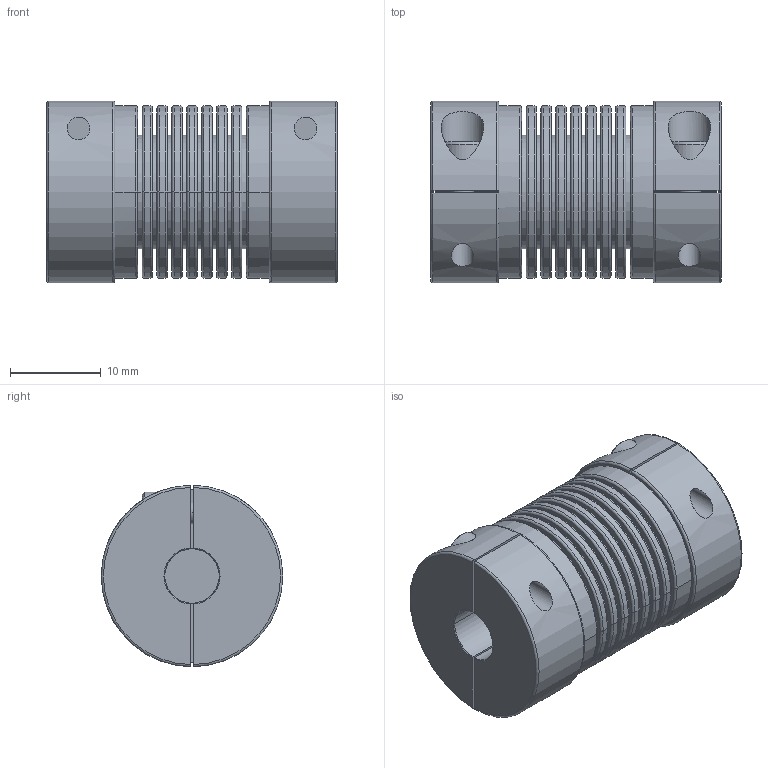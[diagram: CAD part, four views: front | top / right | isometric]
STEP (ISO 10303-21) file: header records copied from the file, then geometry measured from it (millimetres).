
FILE_DESCRIPTION((''),'2;1');
FILE_NAME('51070','2010-11-08T',('carefree'),(''),'PRO/ENGINEER BY PARAMETRIC TECHNOLOGY CORPORATION, 2005030','PRO/ENGINEER BY PARAMETRIC TECHNOLOGY CORPORATION, 2005030','');
FILE_SCHEMA(('CONFIG_CONTROL_DESIGN'));
Length unit declared in the file: millimetre
Products named in the file (1): 51070
Bounding box: 32 x 20 x 20 mm (x, y, z)
Volume: 8145.6 mm3; surface area: 6016.7 mm2
Topology: 1 solids, 1 shells, 168 faces, 378 edges, 236 vertices
Faces by surface type: plane 58, cylinder 58, torus 40, cone 12
Entity records: 5008 total; most frequent: CARTESIAN_POINT 1082, DIRECTION 890, ORIENTED_EDGE 756, EDGE_CURVE 378, AXIS2_PLACEMENT_3D 376, VERTEX_POINT 236, CIRCLE 208, EDGE_LOOP 196
